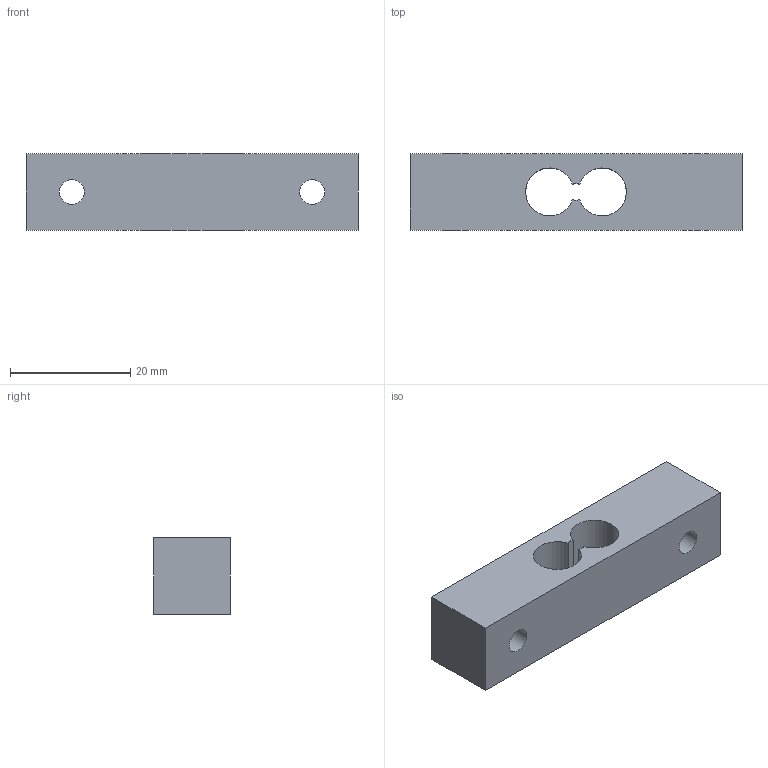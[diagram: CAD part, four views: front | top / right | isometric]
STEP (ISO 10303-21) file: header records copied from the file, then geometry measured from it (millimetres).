
FILE_DESCRIPTION(/* description */ ('Alibre Inc.'),/* implementation_level */ '2;1');
FILE_NAME(/* name */ 'export0',/* time_stamp */ '2013-08-01T14:03:14-06:00',/* author */ (''),/* organization */ (''),/* preprocessor_version */ 'ST-DEVELOPER v14',/* originating_system */ 'Alibre',/* authorisation */ '');
FILE_SCHEMA (('ALIBRE_SCHEMA','CONFIG_CONTROL_DESIGN'));
Length unit declared in the file: centimetre
Products named in the file (1): ID_1
Bounding box: 55.25 x 12.7 x 12.7 mm (x, y, z)
Volume: 7267.7 mm3; surface area: 3803.2 mm2
Topology: 1 solids, 1 shells, 12 faces, 30 edges, 20 vertices
Faces by surface type: cylinder 6, plane 6
Full cylindrical faces by diameter (mm): 4.134 x2
Entity records: 1147 total; most frequent: CARTESIAN_POINT 159, DIRECTION 94, CONSTRAINTPAIRUV 69, REFERENCEDEPENDENTUV 60, ORIENTED_EDGE 56, VECTOR 45, REFERENCEPOINTUV 39, INTEGERVALUEPAIR 33
